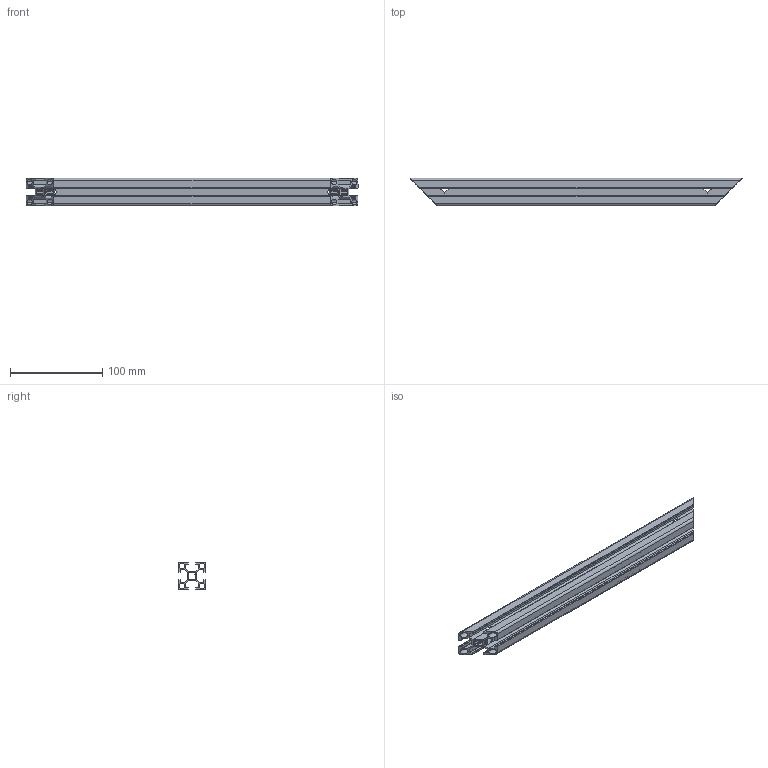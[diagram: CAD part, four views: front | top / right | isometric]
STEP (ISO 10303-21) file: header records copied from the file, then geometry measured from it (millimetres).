
FILE_DESCRIPTION (( 'STEP AP214' ), '1' );
FILE_NAME ('1.5034 Kulmatuki 30.STEP', '2024-10-08T13:38:31', ( '' ), ( '' ), 'SwSTEP 2.0', 'SolidWorks 2024', '' );
FILE_SCHEMA (( 'AUTOMOTIVE_DESIGN' ));
Length unit declared in the file: millimetre
Products named in the file (1): 1.5034 Kulmatuki 30
Bounding box: 360 x 30 x 30 mm (x, y, z)
Volume: 85726.6 mm3; surface area: 109060.8 mm2
Topology: 1 solids, 1 shells, 241 faces, 763 edges, 508 vertices
Faces by surface type: cylinder 123, plane 118
Entity records: 9016 total; most frequent: CARTESIAN_POINT 3105, ORIENTED_EDGE 1526, DIRECTION 915, EDGE_CURVE 763, VERTEX_POINT 508, LINE 399, VECTOR 399, AXIS2_PLACEMENT_3D 258
